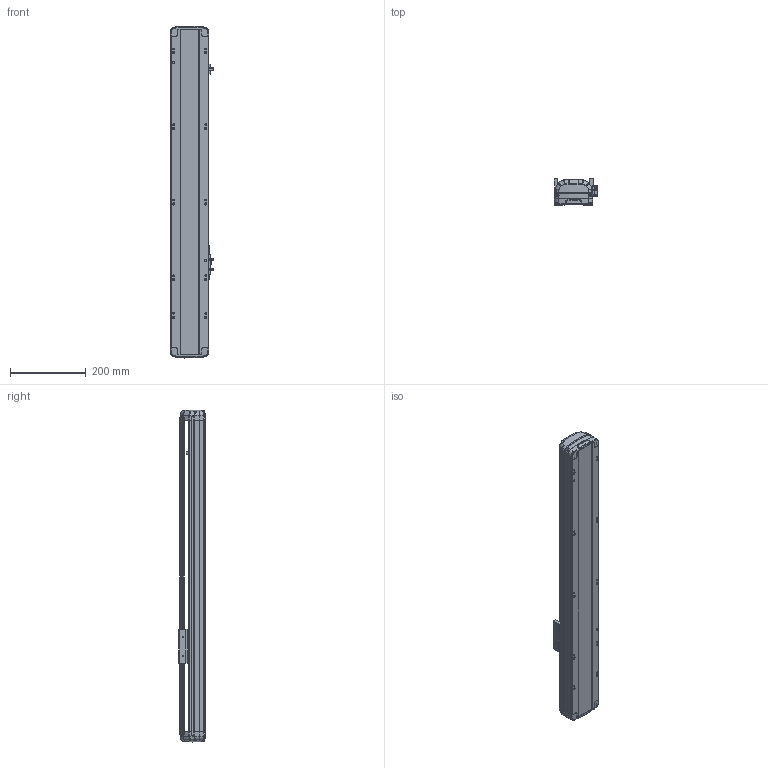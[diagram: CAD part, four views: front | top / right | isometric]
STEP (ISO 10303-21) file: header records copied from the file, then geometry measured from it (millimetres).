
FILE_DESCRIPTION (( 'STEP AP214' ), '1' );
FILE_NAME ('RTH10-XX-500-B-M10-C4.STEP', '2025-10-25T05:13:53', ( 'Microsoft' ), ( 'Microsoft' ), 'SwSTEP 2.0', 'SolidWorks 2018', '' );
FILE_SCHEMA (( 'AUTOMOTIVE_DESIGN' ));
Length unit declared in the file: millimetre
Products named in the file (7): RTH10-XX-500-B-M10-C4; N_RTH12-GY-001P^RTH10-XX-XX-B-M10-C4; N_RTH12-GY-004-賑釱^RTH10-XX-XX-B-M10-C4; N_OMRON EE-SX672 传感器^RTH10-XX-XX-B-M10-C4; N_RTH12-B-011P-臏倰第菁釱^RTH10-XX-XX-B-M10-C4; N_RTH12-B-007P-奻裔^RTH10-XX-XX-B-M10-C4; N_RTH13-L-012覜茼え俋离^RTH10-XX-XX-B-M10-C4
Assembly tree (9 placements, depth 2):
  RTH10-XX-500-B-M10-C4
    N_RTH12-B-011P-臏倰第菁釱^RTH10-XX-XX-B-M10-C4
    N_RTH13-L-012覜茼え俋离^RTH10-XX-XX-B-M10-C4
    N_OMRON EE-SX672 传感器^RTH10-XX-XX-B-M10-C4  x3
    N_RTH12-B-007P-奻裔^RTH10-XX-XX-B-M10-C4
    N_RTH12-GY-004-賑釱^RTH10-XX-XX-B-M10-C4
    N_RTH12-GY-001P^RTH10-XX-XX-B-M10-C4  x2
Bounding box: 116.5 x 70 x 879.29 mm (x, y, z)
Volume: 3320565.2 mm3; surface area: 549001.8 mm2
Topology: 7 solids, 11 shells, 2180 faces, 6100 edges, 3992 vertices
Faces by surface type: plane 1049, bspline 712, cylinder 399, cone 16, torus 4
Entity records: 48704 total; most frequent: CARTESIAN_POINT 21358, ORIENTED_EDGE 6328, DIRECTION 4408, EDGE_CURVE 3170, VERTEX_POINT 2079, LINE 1642, VECTOR 1642, AXIS2_PLACEMENT_3D 1383
